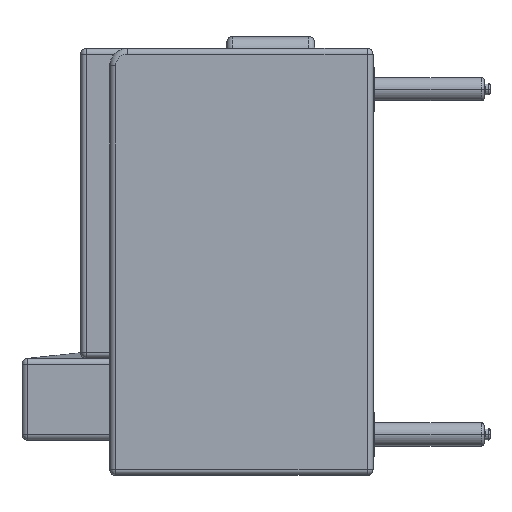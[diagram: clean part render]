
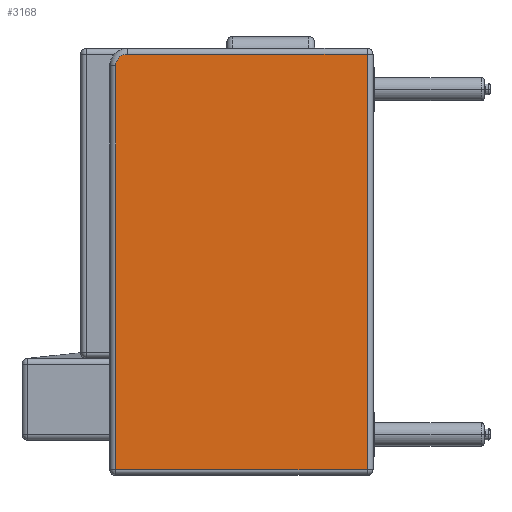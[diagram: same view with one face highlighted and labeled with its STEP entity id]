
A CAD part, left-side view. The second image highlights one B-rep face of the part: STEP entity #3168.
In plain terms, the highlighted planar face has unit normal (-1, 0, 0).
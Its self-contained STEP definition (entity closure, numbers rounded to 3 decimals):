
#371 = CARTESIAN_POINT ( 'NONE',  ( -800., 420., 325. ) ) ;
#809 = VECTOR ( 'NONE', #15759, 1000. ) ;
#893 = EDGE_CURVE ( 'NONE', #12273, #1932, #5120, .T. ) ;
#1579 = CARTESIAN_POINT ( 'NONE',  ( -800., 0., 0. ) ) ;
#1932 = VERTEX_POINT ( 'NONE', #371 ) ;
#2262 = CARTESIAN_POINT ( 'NONE',  ( -800., 440., 305. ) ) ;
#2292 = LINE ( 'NONE', #2456, #809 ) ;
#2442 = ORIENTED_EDGE ( 'NONE', *, *, #893, .F. ) ;
#2456 = CARTESIAN_POINT ( 'NONE',  ( -800., 450., 325. ) ) ;
#2881 = EDGE_CURVE ( 'NONE', #12273, #11846, #4577, .T. ) ;
#3164 = CARTESIAN_POINT ( 'NONE',  ( -800., 440., -395. ) ) ;
#3168 = ADVANCED_FACE ( 'NONE', ( #8948 ), #12560, .T. ) ;
#3295 = EDGE_CURVE ( 'NONE', #12888, #15422, #12559, .T. ) ;
#3438 = EDGE_LOOP ( 'NONE', ( #2442, #7561, #7951, #14474, #13965 ) ) ;
#3677 = VECTOR ( 'NONE', #11264, 1000. ) ;
#4577 = LINE ( 'NONE', #3164, #6357 ) ;
#5120 = CIRCLE ( 'NONE', #7694, 20. ) ;
#5344 = DIRECTION ( 'NONE',  ( -1., 0., 0. ) ) ;
#6357 = VECTOR ( 'NONE', #15430, 1000. ) ;
#7062 = VECTOR ( 'NONE', #13666, 1000. ) ;
#7223 = EDGE_CURVE ( 'NONE', #15422, #1932, #2292, .T. ) ;
#7391 = CARTESIAN_POINT ( 'NONE',  ( -800., 0., -385. ) ) ;
#7515 = CARTESIAN_POINT ( 'NONE',  ( -800., 10., 335. ) ) ;
#7561 = ORIENTED_EDGE ( 'NONE', *, *, #2881, .T. ) ;
#7694 = AXIS2_PLACEMENT_3D ( 'NONE', #8313, #15535, #13285 ) ;
#7951 = ORIENTED_EDGE ( 'NONE', *, *, #12452, .T. ) ;
#8313 = CARTESIAN_POINT ( 'NONE',  ( -800., 420., 305. ) ) ;
#8760 = LINE ( 'NONE', #7391, #7062 ) ;
#8948 = FACE_OUTER_BOUND ( 'NONE', #3438, .T. ) ;
#9696 = CARTESIAN_POINT ( 'NONE',  ( -800., 440., -385. ) ) ;
#10238 = DIRECTION ( 'NONE',  ( 0., 0., 1. ) ) ;
#11078 = AXIS2_PLACEMENT_3D ( 'NONE', #1579, #5344, #10238 ) ;
#11264 = DIRECTION ( 'NONE',  ( 0., 0., 1. ) ) ;
#11846 = VERTEX_POINT ( 'NONE', #9696 ) ;
#12273 = VERTEX_POINT ( 'NONE', #2262 ) ;
#12452 = EDGE_CURVE ( 'NONE', #11846, #12888, #8760, .T. ) ;
#12559 = LINE ( 'NONE', #7515, #3677 ) ;
#12560 = PLANE ( 'NONE',  #11078 ) ;
#12888 = VERTEX_POINT ( 'NONE', #14929 ) ;
#13285 = DIRECTION ( 'NONE',  ( 0., 0., 1. ) ) ;
#13666 = DIRECTION ( 'NONE',  ( 0., -1., 0. ) ) ;
#13929 = CARTESIAN_POINT ( 'NONE',  ( -800., 10., 325. ) ) ;
#13965 = ORIENTED_EDGE ( 'NONE', *, *, #7223, .T. ) ;
#14474 = ORIENTED_EDGE ( 'NONE', *, *, #3295, .T. ) ;
#14929 = CARTESIAN_POINT ( 'NONE',  ( -800., 10., -385. ) ) ;
#15422 = VERTEX_POINT ( 'NONE', #13929 ) ;
#15430 = DIRECTION ( 'NONE',  ( 0., 0., -1. ) ) ;
#15535 = DIRECTION ( 'NONE',  ( 1., 0., 0. ) ) ;
#15759 = DIRECTION ( 'NONE',  ( 0., 1., 0. ) ) ;
